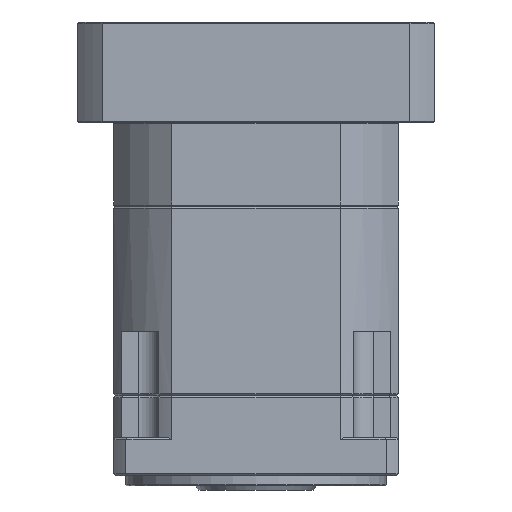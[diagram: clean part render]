
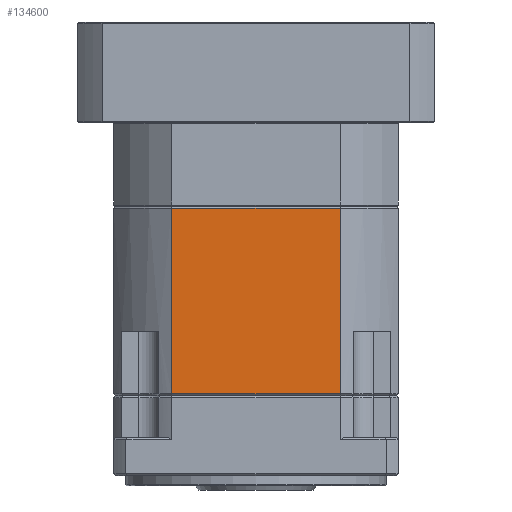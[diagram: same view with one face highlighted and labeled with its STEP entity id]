
A CAD part, front view. The second image highlights one B-rep face of the part: STEP entity #134600.
In plain terms, the highlighted planar face has unit normal (0, -1, 0).
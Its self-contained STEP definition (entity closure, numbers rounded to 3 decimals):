
#4489 = CARTESIAN_POINT ( 'NONE',  ( -80.236, 22.655, -121.574 ) ) ;
#7297 = CARTESIAN_POINT ( 'NONE',  ( -80.236, 22.655, 207.605 ) ) ;
#12807 = AXIS2_PLACEMENT_3D ( 'NONE', #96240, #31380, #33219 ) ;
#18292 = CARTESIAN_POINT ( 'NONE',  ( -164.266, 22.655, -29.074 ) ) ;
#18453 = CARTESIAN_POINT ( 'NONE',  ( -51.251, 22.655, -121.574 ) ) ;
#21203 = CARTESIAN_POINT ( 'NONE',  ( -80.236, 22.655, -29.074 ) ) ;
#31380 = DIRECTION ( 'NONE',  ( 0., 1., 0. ) ) ;
#33219 = DIRECTION ( 'NONE',  ( -1., 0., 0. ) ) ;
#36588 = EDGE_CURVE ( 'NONE', #109445, #59964, #69028, .T. ) ;
#42409 = VERTEX_POINT ( 'NONE', #21203 ) ;
#48257 = VECTOR ( 'NONE', #125034, 1000. ) ;
#52687 = EDGE_CURVE ( 'NONE', #59964, #101550, #103488, .T. ) ;
#53716 = CARTESIAN_POINT ( 'NONE',  ( -122.251, 22.655, -29.074 ) ) ;
#57941 = VECTOR ( 'NONE', #117175, 1000. ) ;
#59964 = VERTEX_POINT ( 'NONE', #82382 ) ;
#69028 = LINE ( 'NONE', #18453, #123024 ) ;
#78598 = LINE ( 'NONE', #53716, #124275 ) ;
#82029 = LINE ( 'NONE', #7297, #48257 ) ;
#82382 = CARTESIAN_POINT ( 'NONE',  ( -164.266, 22.655, -121.574 ) ) ;
#84195 = DIRECTION ( 'NONE',  ( -1., 0., 0. ) ) ;
#86082 = EDGE_CURVE ( 'NONE', #101550, #42409, #78598, .T. ) ;
#89183 = FACE_OUTER_BOUND ( 'NONE', #104668, .T. ) ;
#96240 = CARTESIAN_POINT ( 'NONE',  ( -51.251, 22.655, -28.074 ) ) ;
#101550 = VERTEX_POINT ( 'NONE', #18292 ) ;
#103441 = ORIENTED_EDGE ( 'NONE', *, *, #132141, .F. ) ;
#103488 = LINE ( 'NONE', #138355, #57941 ) ;
#104200 = ORIENTED_EDGE ( 'NONE', *, *, #36588, .F. ) ;
#104668 = EDGE_LOOP ( 'NONE', ( #112850, #104200, #103441, #124713 ) ) ;
#106412 = DIRECTION ( 'NONE',  ( 1., 0., 0. ) ) ;
#109445 = VERTEX_POINT ( 'NONE', #4489 ) ;
#112850 = ORIENTED_EDGE ( 'NONE', *, *, #52687, .F. ) ;
#117175 = DIRECTION ( 'NONE',  ( 0., 0., 1. ) ) ;
#123024 = VECTOR ( 'NONE', #84195, 1000. ) ;
#124275 = VECTOR ( 'NONE', #106412, 1000. ) ;
#124713 = ORIENTED_EDGE ( 'NONE', *, *, #86082, .F. ) ;
#125034 = DIRECTION ( 'NONE',  ( 0., 0., -1. ) ) ;
#128347 = PLANE ( 'NONE',  #12807 ) ;
#132141 = EDGE_CURVE ( 'NONE', #42409, #109445, #82029, .T. ) ;
#134600 = ADVANCED_FACE ( 'NONE', ( #89183 ), #128347, .F. ) ;
#138355 = CARTESIAN_POINT ( 'NONE',  ( -164.266, 22.655, -28.074 ) ) ;
